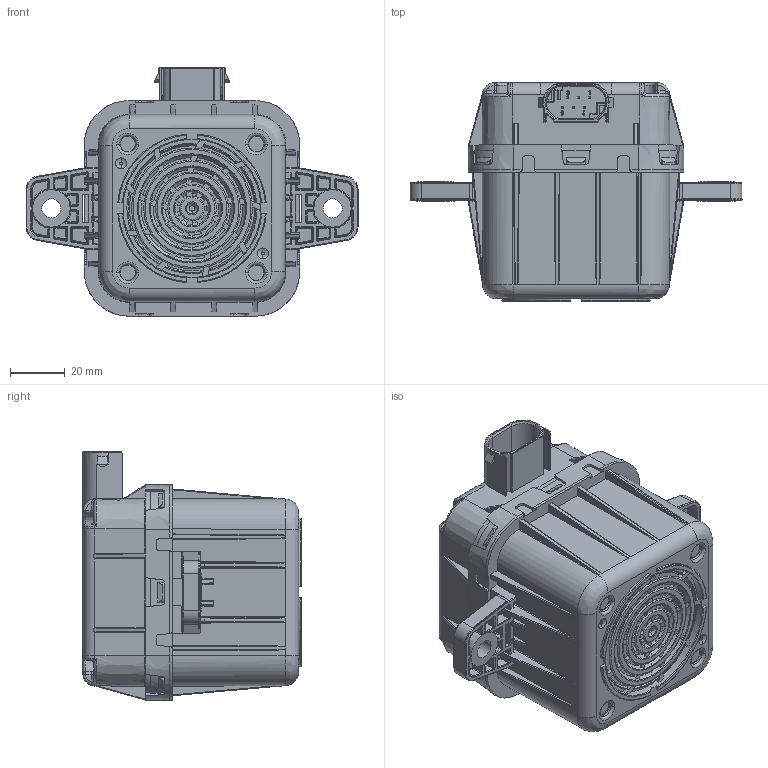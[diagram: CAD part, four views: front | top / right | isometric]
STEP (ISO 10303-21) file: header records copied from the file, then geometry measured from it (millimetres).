
FILE_DESCRIPTION(('CATIA V5 STEP Exchange','CAx-IF Rec.Pracs.--- Model Styling and Organization---1.5--- 2016-08-15','CAx-IF Rec.Pracs.---Supplemental Geometry---1.0---2011-11-01','CAx-IF Rec.Pracs.--- Composite Materials ---1.1---2010-07-15'),'2;1');
FILE_NAME('E:\tmp\ddx\2011226\HELLA_3D_data_Acoustic_vehicle_alerting_system_(AVAS)_3SL 015 329-00.stp','2022-01-18T07:38:38+00:00',('none'),('none'),'CATIA Version 5-6 Release 2020 SP3 HF9','CATIA V5 STEP AP214 Edition 3 v2','none');
FILE_SCHEMA(('AUTOMOTIVE_DESIGN { 1 0 10303 214 3 1 1 1 }'));
Products named in the file (1): 10002971879_D10_001
Bounding box: 121.6 x 80.1 x 91 mm (x, y, z)
Volume: 381205.7 mm3; surface area: 48986.3 mm2
Topology: 2 solids, 16 shells, 2228 faces, 5707 edges, 3449 vertices
Faces by surface type: plane 840, cylinder 733, bspline 238, cone 154, sphere 152, torus 111
Entity records: 74016 total; most frequent: CARTESIAN_POINT 26370, ORIENTED_EDGE 11208, DIRECTION 7644, EDGE_CURVE 5604, VERTEX_POINT 3449, AXIS2_PLACEMENT_3D 3287, VECTOR 2456, LINE 2456
